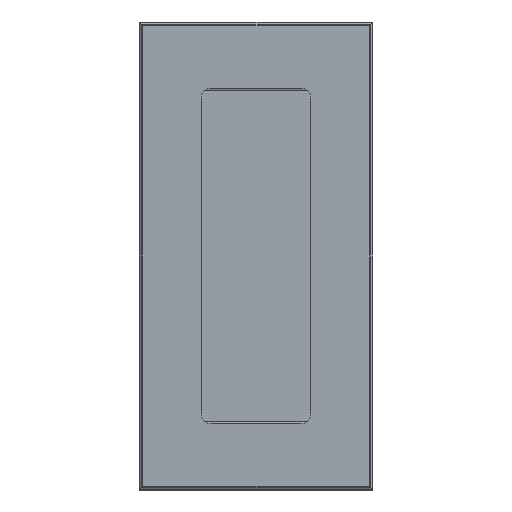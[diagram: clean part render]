
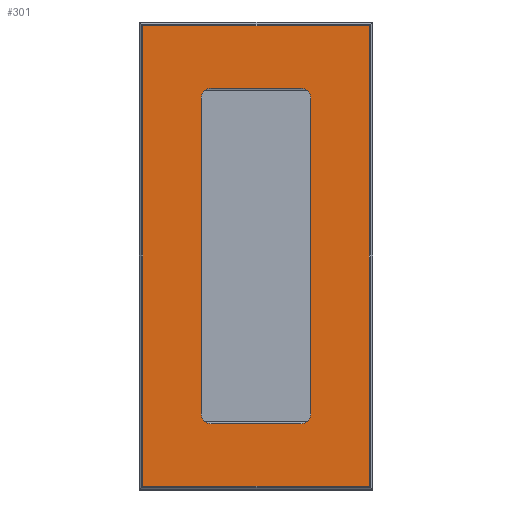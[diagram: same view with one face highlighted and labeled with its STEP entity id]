
A CAD part, front view. The second image highlights one B-rep face of the part: STEP entity #301.
In plain terms, the highlighted planar face has unit normal (0, -1, 0).
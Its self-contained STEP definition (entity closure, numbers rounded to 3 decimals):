
#301=ADVANCED_FACE('',(#574,#575),#576,.F.);
#574=FACE_BOUND('',#844,.T.);
#575=FACE_OUTER_BOUND('',#845,.T.);
#576=PLANE('',#846);
#844=EDGE_LOOP('',(#1357,#1358,#1359,#1360,#1361,#1362,#1363,#1364));
#845=EDGE_LOOP('',(#1365,#1366,#1367,#1368));
#846=AXIS2_PLACEMENT_3D('',#1369,#1370,#1371);
#1357=ORIENTED_EDGE('',*,*,#1655,.F.);
#1358=ORIENTED_EDGE('',*,*,#1792,.F.);
#1359=ORIENTED_EDGE('',*,*,#1706,.F.);
#1360=ORIENTED_EDGE('',*,*,#1608,.F.);
#1361=ORIENTED_EDGE('',*,*,#1712,.F.);
#1362=ORIENTED_EDGE('',*,*,#1645,.F.);
#1363=ORIENTED_EDGE('',*,*,#1793,.F.);
#1364=ORIENTED_EDGE('',*,*,#1794,.F.);
#1365=ORIENTED_EDGE('',*,*,#1795,.F.);
#1366=ORIENTED_EDGE('',*,*,#1718,.T.);
#1367=ORIENTED_EDGE('',*,*,#1796,.T.);
#1368=ORIENTED_EDGE('',*,*,#1676,.F.);
#1369=CARTESIAN_POINT('',(-2140.714,-1459.118,849.46));
#1370=DIRECTION('',(0.,1.0,0.0));
#1371=DIRECTION('',(-1.0,0.,0.0));
#1608=EDGE_CURVE('',#1869,#1871,#1872,.T.);
#1645=EDGE_CURVE('',#1934,#1936,#1937,.T.);
#1655=EDGE_CURVE('',#1952,#1954,#1955,.T.);
#1676=EDGE_CURVE('',#1987,#1983,#1989,.T.);
#1706=EDGE_CURVE('',#1871,#2030,#2031,.T.);
#1712=EDGE_CURVE('',#1936,#1869,#2038,.T.);
#1718=EDGE_CURVE('',#2046,#2044,#2047,.T.);
#1792=EDGE_CURVE('',#2030,#1952,#2147,.T.);
#1793=EDGE_CURVE('',#2148,#1934,#2149,.T.);
#1794=EDGE_CURVE('',#1954,#2148,#2150,.T.);
#1795=EDGE_CURVE('',#2046,#1987,#2151,.T.);
#1796=EDGE_CURVE('',#2044,#1983,#2152,.T.);
#1869=VERTEX_POINT('',#2235);
#1871=VERTEX_POINT('',#2238);
#1872=CIRCLE('',#2239,2.5);
#1934=VERTEX_POINT('',#2324);
#1936=VERTEX_POINT('',#2327);
#1937=CIRCLE('',#2328,2.5);
#1952=VERTEX_POINT('',#2349);
#1954=VERTEX_POINT('',#2352);
#1955=LINE('',#2353,#2354);
#1983=VERTEX_POINT('',#2394);
#1987=VERTEX_POINT('',#2399);
#1989=LINE('',#2401,#2402);
#2030=VERTEX_POINT('',#2480);
#2031=LINE('',#2481,#2482);
#2038=LINE('',#2491,#2492);
#2044=VERTEX_POINT('',#2508);
#2046=VERTEX_POINT('',#2510);
#2047=LINE('',#2511,#2512);
#2147=CIRCLE('',#2664,2.5);
#2148=VERTEX_POINT('',#2665);
#2149=LINE('',#2666,#2667);
#2150=CIRCLE('',#2668,2.5);
#2151=LINE('',#2669,#2670);
#2152=LINE('',#2671,#2672);
#2235=CARTESIAN_POINT('',(-2124.714,-1459.118,807.96));
#2238=CARTESIAN_POINT('',(-2122.214,-1459.118,805.46));
#2239=AXIS2_PLACEMENT_3D('',#2777,#2778,#2779);
#2324=CARTESIAN_POINT('',(-2122.214,-1459.118,833.46));
#2327=CARTESIAN_POINT('',(-2124.714,-1459.118,830.96));
#2328=AXIS2_PLACEMENT_3D('',#2829,#2830,#2831);
#2349=CARTESIAN_POINT('',(-2038.714,-1459.118,807.96));
#2352=CARTESIAN_POINT('',(-2038.714,-1459.118,830.96));
#2353=CARTESIAN_POINT('',(-2038.714,-1459.118,807.96));
#2354=VECTOR('',#2839,1.0);
#2394=CARTESIAN_POINT('',(-2140.714,-1459.118,790.46));
#2399=CARTESIAN_POINT('',(-2022.714,-1459.118,790.46));
#2401=CARTESIAN_POINT('',(-2021.714,-1459.118,790.46));
#2402=VECTOR('',#2869,1.0);
#2480=CARTESIAN_POINT('',(-2041.214,-1459.118,805.46));
#2481=CARTESIAN_POINT('',(-2122.214,-1459.118,805.46));
#2482=VECTOR('',#2894,1.0);
#2491=CARTESIAN_POINT('',(-2124.714,-1459.118,830.96));
#2492=VECTOR('',#2900,1.0);
#2508=CARTESIAN_POINT('',(-2140.714,-1459.118,848.46));
#2510=CARTESIAN_POINT('',(-2022.714,-1459.118,848.46));
#2511=CARTESIAN_POINT('',(-2021.714,-1459.118,848.46));
#2512=VECTOR('',#2904,1.0);
#2664=AXIS2_PLACEMENT_3D('',#2978,#2979,#2980);
#2665=CARTESIAN_POINT('',(-2041.214,-1459.118,833.46));
#2666=CARTESIAN_POINT('',(-2041.214,-1459.118,833.46));
#2667=VECTOR('',#2981,1.0);
#2668=AXIS2_PLACEMENT_3D('',#2982,#2983,#2984);
#2669=CARTESIAN_POINT('',(-2022.714,-1459.118,849.46));
#2670=VECTOR('',#2985,1.0);
#2671=CARTESIAN_POINT('',(-2140.714,-1459.118,849.46));
#2672=VECTOR('',#2986,1.0);
#2777=CARTESIAN_POINT('',(-2122.214,-1459.118,807.96));
#2778=DIRECTION('',(0.0,-1.0,0.0));
#2779=DIRECTION('',(-1.0,0.0,0.0));
#2829=CARTESIAN_POINT('',(-2122.214,-1459.118,830.96));
#2830=DIRECTION('',(0.0,-1.0,0.0));
#2831=DIRECTION('',(-1.0,0.0,0.0));
#2839=DIRECTION('',(0.0,0.0,1.0));
#2869=DIRECTION('',(-1.0,0.0,0.0));
#2894=DIRECTION('',(1.0,0.0,0.0));
#2900=DIRECTION('',(0.0,0.0,-1.0));
#2904=DIRECTION('',(-1.0,0.0,0.0));
#2978=CARTESIAN_POINT('',(-2041.214,-1459.118,807.96));
#2979=DIRECTION('',(0.0,-1.0,0.0));
#2980=DIRECTION('',(-1.0,0.0,0.0));
#2981=DIRECTION('',(-1.0,0.0,0.0));
#2982=CARTESIAN_POINT('',(-2041.214,-1459.118,830.96));
#2983=DIRECTION('',(0.0,-1.0,0.0));
#2984=DIRECTION('',(-1.0,0.0,0.0));
#2985=DIRECTION('',(0.0,0.0,-1.0));
#2986=DIRECTION('',(0.0,0.0,-1.0));
